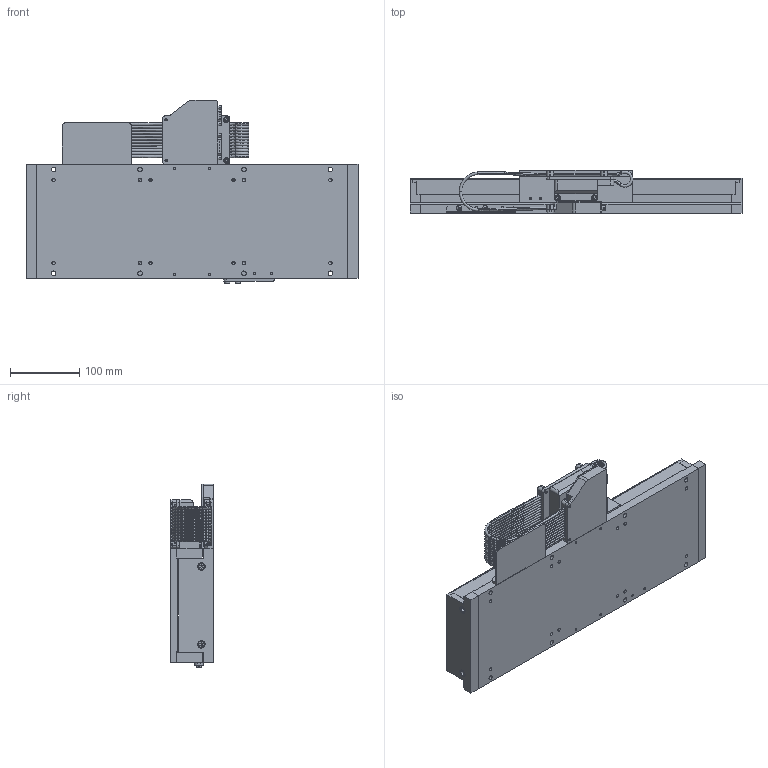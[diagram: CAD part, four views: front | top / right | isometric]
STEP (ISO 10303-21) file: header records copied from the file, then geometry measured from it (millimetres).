
FILE_DESCRIPTION (( 'STEP AP214' ), '1' );
FILE_NAME ('LM3-250-LM-EXPORT.STEP', '2024-05-06T20:28:52', ( 'lab' ), ( '' ), 'SwSTEP 2.0', 'SolidWorks 2018', '' );
FILE_SCHEMA (( 'AUTOMOTIVE_DESIGN' ));
Length unit declared in the file: millimetre
Products named in the file (19): 1000011_file_export38; 1000010_file_export20; 1000006_file_export13; 1000013_file_export35; 1000014_file_export32; LM3-250-LM-EXPORT; 1000005_file_export9; 1000002_file_export4; 1000004_file_export1; 1000018_file_export3; 1000012_file_export27; 1000008_file_export18; 1000009_file_export19; 1000001_file_export12; 1000017_file_export10; 1000015_file_export33; 1000003_file_export11; 1000016_file_export36; 1000007_file_export21
Assembly tree (39 placements, depth 2):
  LM3-250-LM-EXPORT
    1000007_file_export21  x4
    1000008_file_export18
    1000009_file_export19
    1000010_file_export20
    1000011_file_export38  x8
    1000012_file_export27
    1000013_file_export35  x2
    1000014_file_export32
    1000015_file_export33  x6
    1000016_file_export36  x3
    1000017_file_export10  x2
    1000018_file_export3
    1000003_file_export11  x2
    1000005_file_export9  x2
    1000004_file_export1
    1000002_file_export4
    1000001_file_export12
    1000006_file_export13
Bounding box: 480 x 62 x 266 mm (x, y, z)
Volume: 4227228.4 mm3; surface area: 573195.8 mm2
Topology: 95 solids, 95 shells, 3019 faces, 6921 edges, 4174 vertices
Faces by surface type: plane 1116, cylinder 840, bspline 448, cone 332, torus 283
Entity records: 113195 total; most frequent: CARTESIAN_POINT 49779, DIRECTION 11909, ORIENTED_EDGE 11402, EDGE_CURVE 5701, AXIS2_PLACEMENT_3D 4707, VERTEX_POINT 3503, EDGE_LOOP 2816, CIRCLE 2618
